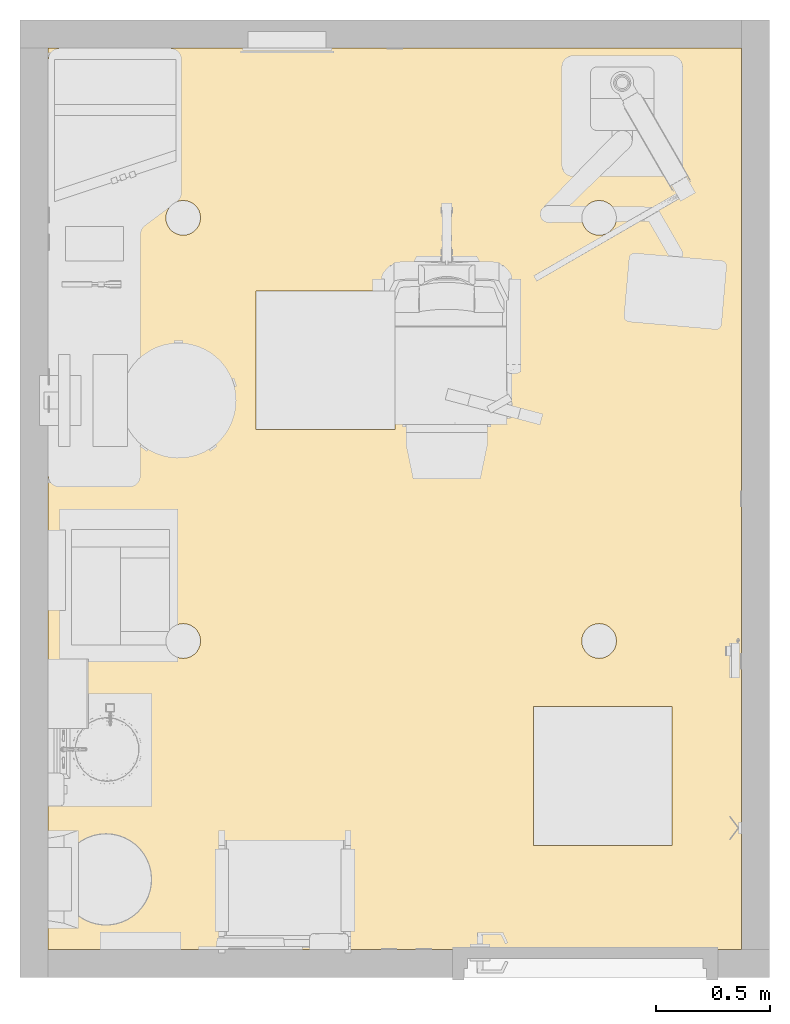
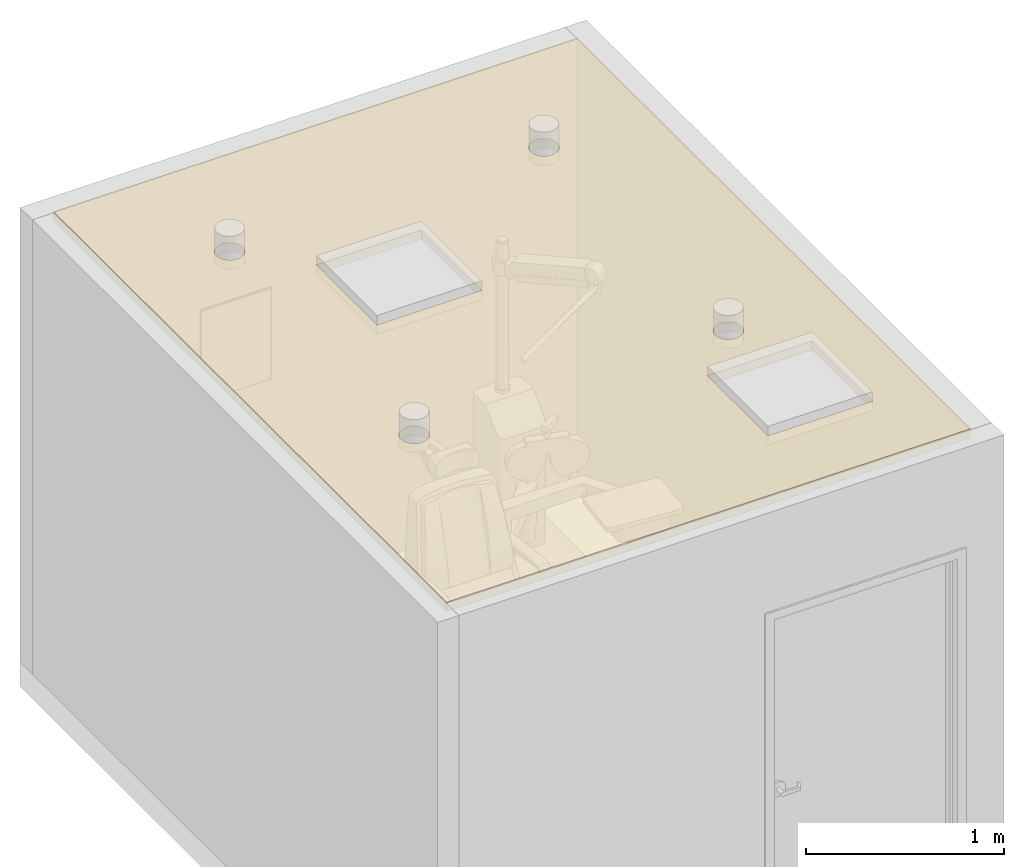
# One storey, part 3 of 11: 1 covering.
"""IFC2X3 building model written with IfcOpenShell, lengths in feet."""

from ifc_helpers import new_model, entity, si_unit, converted_unit, derived_unit, direction, frame, frame_2d, origin, place, context, subcontext, project, spatial, polyline, circle_curve, parameter, trimmed, segment, composite_curve, outline, extrude, material, layer, layer_set, layer_usage, element, save


model = new_model("IFC2X3")

# Units and contexts
model_context = context("Model", 3, precision=0.0001, world=origin(), true_north=direction((6.12303176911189e-17, 1.0)))
body_context = subcontext(model_context, "Body", "Model", "MODEL_VIEW")
ifc_project = project(units=[converted_unit("LENGTHUNIT", "FOOT", entity("IfcRatioMeasure", 0.3048), si_unit("LENGTHUNIT", "METRE"), dimensions=[1, 0, 0, 0, 0, 0, 0]), converted_unit("AREAUNIT", "SQUARE FOOT", entity("IfcRatioMeasure", 0.09290304), si_unit("AREAUNIT", "SQUARE_METRE"), dimensions=[2, 0, 0, 0, 0, 0, 0]), converted_unit("VOLUMEUNIT", "CUBIC FOOT", entity("IfcRatioMeasure", 0.028316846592), si_unit("VOLUMEUNIT", "CUBIC_METRE"), dimensions=[3, 0, 0, 0, 0, 0, 0]), converted_unit("PLANEANGLEUNIT", "DEGREE", entity("IfcRatioMeasure", 0.0174532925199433), si_unit("PLANEANGLEUNIT", "RADIAN"), dimensions=[0, 0, 0, 0, 0, 0, 0]), si_unit("MASSUNIT", "GRAM", prefix="KILO"), derived_unit("MASSDENSITYUNIT", [(si_unit("MASSUNIT", "GRAM", prefix="KILO"), 1), (si_unit("LENGTHUNIT", "METRE"), -3)]), si_unit("TIMEUNIT", "SECOND"), si_unit("FREQUENCYUNIT", "HERTZ"), si_unit("THERMODYNAMICTEMPERATUREUNIT", "DEGREE_CELSIUS"), derived_unit("THERMALTRANSMITTANCEUNIT", [(si_unit("MASSUNIT", "GRAM", prefix="KILO"), 1), (si_unit("THERMODYNAMICTEMPERATUREUNIT", "KELVIN"), -1), (si_unit("TIMEUNIT", "SECOND"), -3)]), derived_unit("VOLUMETRICFLOWRATEUNIT", [(si_unit("LENGTHUNIT", "METRE"), 3), (si_unit("TIMEUNIT", "SECOND"), -1)]), si_unit("ELECTRICCURRENTUNIT", "AMPERE"), si_unit("ELECTRICVOLTAGEUNIT", "VOLT"), si_unit("POWERUNIT", "WATT"), si_unit("FORCEUNIT", "NEWTON"), si_unit("ILLUMINANCEUNIT", "LUX"), si_unit("LUMINOUSFLUXUNIT", "LUMEN"), si_unit("LUMINOUSINTENSITYUNIT", "CANDELA"), derived_unit("USERDEFINED", [(si_unit("MASSUNIT", "GRAM", prefix="KILO"), -1), (si_unit("LENGTHUNIT", "METRE"), -2), (si_unit("TIMEUNIT", "SECOND"), 3), (si_unit("LUMINOUSFLUXUNIT", "LUMEN"), 1)]), derived_unit("LINEARVELOCITYUNIT", [(si_unit("LENGTHUNIT", "METRE"), 1), (si_unit("TIMEUNIT", "SECOND"), -1)]), si_unit("PRESSUREUNIT", "PASCAL"), derived_unit("USERDEFINED", [(si_unit("LENGTHUNIT", "METRE"), -2), (si_unit("MASSUNIT", "GRAM", prefix="KILO"), 1), (si_unit("TIMEUNIT", "SECOND"), -2)])], contexts=[model_context])

# Site, building, storey, space
site_placement = place(None, origin())
site = spatial("IfcSite", under=ifc_project, at=site_placement, Name="Default", CompositionType="ELEMENT")
building_placement = place(site_placement, origin())
building = spatial("IfcBuilding", under=site, at=building_placement, Name="EYE CLINIC:  OPTHALMOLOGY AND OPTOMETRY SERVICES (Ch. 233)", CompositionType="ELEMENT")
storey_placement = place(building_placement, origin())
storey = spatial("IfcBuildingStorey", under=building, at=storey_placement, Name="DATUM", CompositionType="ELEMENT", Elevation=0.0)
space_placement = place(storey_placement, origin())
space = spatial("IfcSpace", under=storey, at=space_placement, Name="(OPET2)", CompositionType="ELEMENT", InteriorOrExteriorSpace="INTERNAL")

# Covering
ifc_material_1 = material(Name="Default")
ifc_layer_1 = layer(ifc_material_1, 0.135416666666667)
ifc_material_2 = material(Name="Acoustic Ceiling Tile 24 x 24")
ifc_layer_2 = layer(ifc_material_2, 0.0520833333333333)
ifc_layer_set = layer_set([ifc_layer_1, ifc_layer_2], Name="Compound Ceiling:2' x 2' ACT System")
ifc_layer_usage = layer_usage(ifc_layer_set, "AXIS3", "POSITIVE", 0.0)
covering_placement = place(space_placement, origin())
element("IfcCovering", 1, at=covering_placement, inside=space, material=ifc_layer_usage, Name="Compound Ceiling:2' x 2' ACT System", ObjectType="Compound Ceiling:2' x 2' ACT System", PredefinedType="CEILING", context=body_context, shape_type="SweptSolid", body=[
    extrude(outline(polyline([(-5.0, -6.5), (5.0, -6.5), (5.0, 6.5), (-5.0, 6.5), (-5.0, -6.5)]), holes=[composite_curve([segment(trimmed(circle_curve(frame_2d((-3.05208333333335, 4.05208333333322), x_axis=(1.0, 0.0)), 0.25), [parameter(180.0)], [parameter(360.0)], True, "PARAMETER"), False, "CONTINUOUS"), segment(trimmed(circle_curve(frame_2d((-3.05208333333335, 4.05208333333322), x_axis=(1.0, 0.0)), 0.25), [parameter(0.0)], [parameter(180.0)], True, "PARAMETER"), False, "CONTINUOUS")], self_intersect=False), composite_curve([segment(trimmed(circle_curve(frame_2d((-3.05208333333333, -2.05208333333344), x_axis=(1.0, 0.0)), 0.25), [parameter(180.0)], [parameter(360.0)], True, "PARAMETER"), False, "CONTINUOUS"), segment(trimmed(circle_curve(frame_2d((-3.05208333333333, -2.05208333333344), x_axis=(1.0, 0.0)), 0.25), [parameter(360.0)], [parameter(180.0)], True, "PARAMETER"), False, "CONTINUOUS")], self_intersect=False), composite_curve([segment(trimmed(circle_curve(frame_2d((2.94791666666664, 4.05208333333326), x_axis=(1.0, 0.0)), 0.25), [parameter(180.0)], [parameter(360.0)], True, "PARAMETER"), False, "CONTINUOUS"), segment(trimmed(circle_curve(frame_2d((2.94791666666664, 4.05208333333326), x_axis=(1.0, 0.0)), 0.25), [parameter(0.0)], [parameter(180.0)], True, "PARAMETER"), False, "CONTINUOUS")], self_intersect=False), composite_curve([segment(trimmed(circle_curve(frame_2d((2.94791666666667, -2.0520833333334), x_axis=(1.0, 0.0)), 0.25), [parameter(180.0)], [parameter(360.0)], True, "PARAMETER"), False, "CONTINUOUS"), segment(trimmed(circle_curve(frame_2d((2.94791666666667, -2.0520833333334), x_axis=(1.0, 0.0)), 0.25), [parameter(0.0)], [parameter(180.0)], True, "PARAMETER"), False, "CONTINUOUS")], self_intersect=False), polyline([(-2.0, 1.0), (-2.0, 3.0), (0.0, 3.0), (0.0, 1.0), (-2.0, 1.0)]), polyline([(2.0, -5.0), (2.0, -3.0), (4.0, -3.0), (4.0, -5.0), (2.0, -5.0)])]), frame((-30.8602308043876, 5.30762568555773, 9.0)), (0.0, 0.0, 1.0), 0.1875),
])

save(model, "model.ifc")
